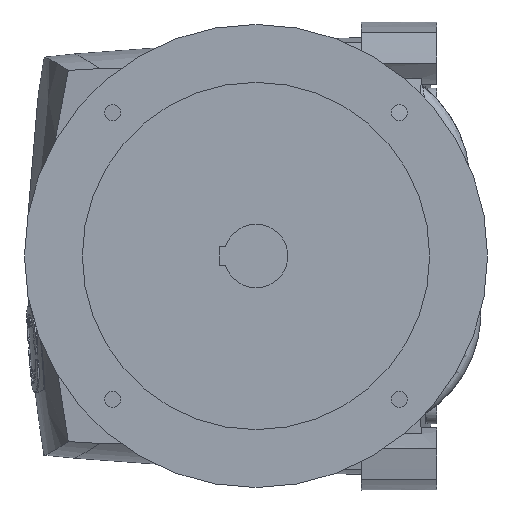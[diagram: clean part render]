
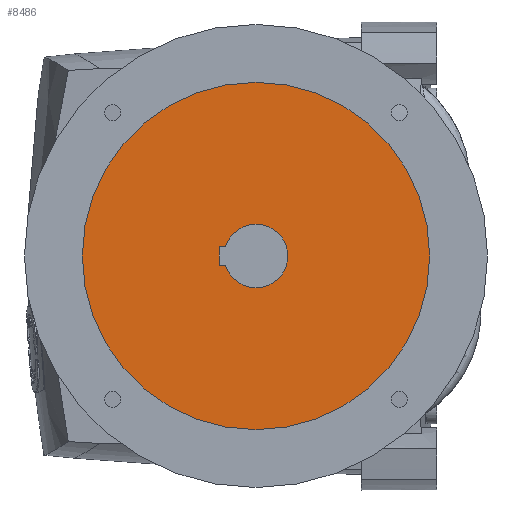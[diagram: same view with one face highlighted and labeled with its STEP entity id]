
A CAD part, left-side view. The second image highlights one B-rep face of the part: STEP entity #8486.
In plain terms, the highlighted planar face has unit normal (-1, 0, 0).
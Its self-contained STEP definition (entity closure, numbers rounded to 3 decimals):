
#136=CARTESIAN_POINT('',(-444.1,71.934,186.364));
#137=DIRECTION('',(-1.,0.,0.));
#138=DIRECTION('',(0.,1.,0.));
#139=AXIS2_PLACEMENT_3D('',#136,#137,#138);
#149=CARTESIAN_POINT('',(-444.1,71.934,186.364));
#150=DIRECTION('',(1.,0.,0.));
#151=DIRECTION('',(0.,1.,0.));
#152=AXIS2_PLACEMENT_3D('',#149,#150,#151);
#154=DIRECTION('',(0.,1.,0.));
#155=VECTOR('',#154,5.489);
#156=CARTESIAN_POINT('',(-444.1,98.245,194.364));
#157=LINE('',#156,#155);
#158=DIRECTION('',(0.,0.,-1.));
#159=VECTOR('',#158,16.);
#160=CARTESIAN_POINT('',(-444.1,103.734,194.364));
#161=LINE('',#160,#159);
#162=DIRECTION('',(0.,-1.,0.));
#163=VECTOR('',#162,5.489);
#164=CARTESIAN_POINT('',(-444.1,103.734,178.364));
#165=LINE('',#164,#163);
#166=CARTESIAN_POINT('',(-444.1,71.934,186.364));
#167=DIRECTION('',(-1.,0.,0.));
#168=DIRECTION('',(0.,0.957,-0.291));
#169=AXIS2_PLACEMENT_3D('',#166,#167,#168);
#8094=CARTESIAN_POINT('',(-444.1,221.934,186.364));
#8096=VERTEX_POINT('',#8094);
#8102=CARTESIAN_POINT('',(-444.1,-78.066,
186.364));
#8104=VERTEX_POINT('',#8102);
#8160=CARTESIAN_POINT('',(-444.1,98.245,194.364));
#8161=CARTESIAN_POINT('',(-444.1,103.734,194.364));
#8162=VERTEX_POINT('',#8160);
#8163=VERTEX_POINT('',#8161);
#8164=CARTESIAN_POINT('',(-444.1,103.734,178.364));
#8165=VERTEX_POINT('',#8164);
#8166=CARTESIAN_POINT('',(-444.1,98.245,178.364));
#8167=VERTEX_POINT('',#8166);
#8467=CARTESIAN_POINT('',(-444.1,71.934,186.364));
#8468=DIRECTION('',(-1.,0.,0.));
#8469=DIRECTION('',(0.,-1.,0.));
#8470=AXIS2_PLACEMENT_3D('',#8467,#8468,#8469);
#8471=PLANE('',#8470);
#8472=ORIENTED_EDGE('',*,*,#8462,.T.);
#8473=ORIENTED_EDGE('',*,*,#8446,.F.);
#8474=EDGE_LOOP('',(#8472,#8473));
#8475=FACE_OUTER_BOUND('',#8474,.F.);
#8477=ORIENTED_EDGE('',*,*,#8476,.T.);
#8479=ORIENTED_EDGE('',*,*,#8478,.T.);
#8481=ORIENTED_EDGE('',*,*,#8480,.T.);
#8483=ORIENTED_EDGE('',*,*,#8482,.T.);
#8484=EDGE_LOOP('',(#8477,#8479,#8481,#8483));
#8485=FACE_BOUND('',#8484,.F.);
#8486=ADVANCED_FACE('',(#8475,#8485),#8471,.T.);
#140=CIRCLE('',#139,150.);
#153=CIRCLE('',#152,150.);
#170=CIRCLE('',#169,27.5);
#8446=EDGE_CURVE('',#8096,#8104,#140,.T.);
#8462=EDGE_CURVE('',#8096,#8104,#153,.T.);
#8476=EDGE_CURVE('',#8162,#8163,#157,.T.);
#8478=EDGE_CURVE('',#8163,#8165,#161,.T.);
#8480=EDGE_CURVE('',#8165,#8167,#165,.T.);
#8482=EDGE_CURVE('',#8167,#8162,#170,.T.);
